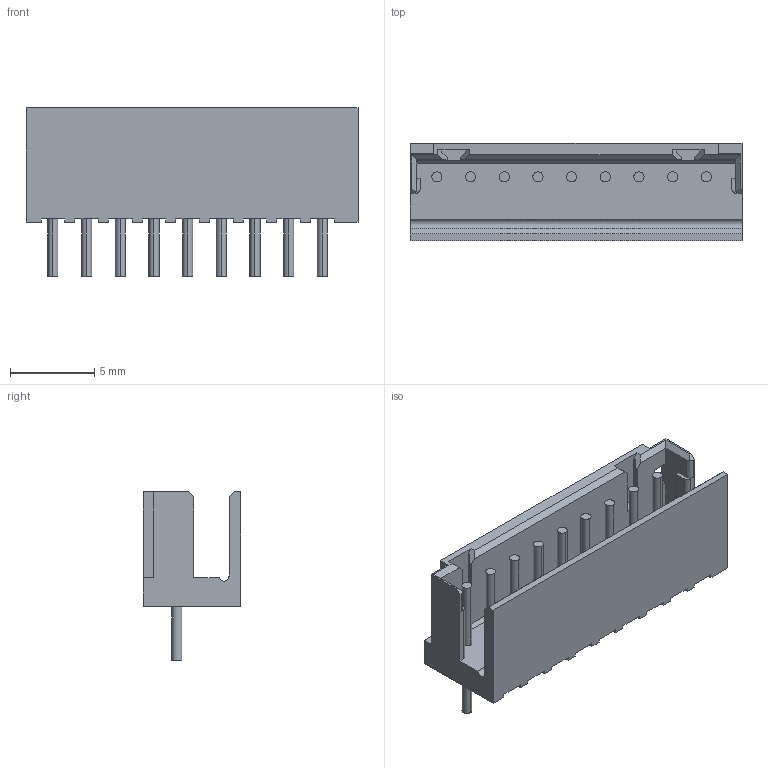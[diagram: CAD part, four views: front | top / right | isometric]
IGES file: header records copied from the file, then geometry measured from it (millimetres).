
Start section:  PTC IGES file: c-292133-9-o-3d.igs
Global section: file name: c-292133-9-o-3d.igs; native system: Pro/ENGINEER by Parametric Technology Corporation; preprocessor: 2005450; author: workeradm; organization: Unknown; date: 080107.134356; units: millimetre
Bounding box: 19.72 x 5.8 x 10 mm (x, y, z)
Surface area: 926.2 mm2 (no closed solid volume)
Topology: 0 solids, 0 shells, 154 faces, 824 edges, 824 vertices
Faces by surface type: bspline 113, revolution 41
